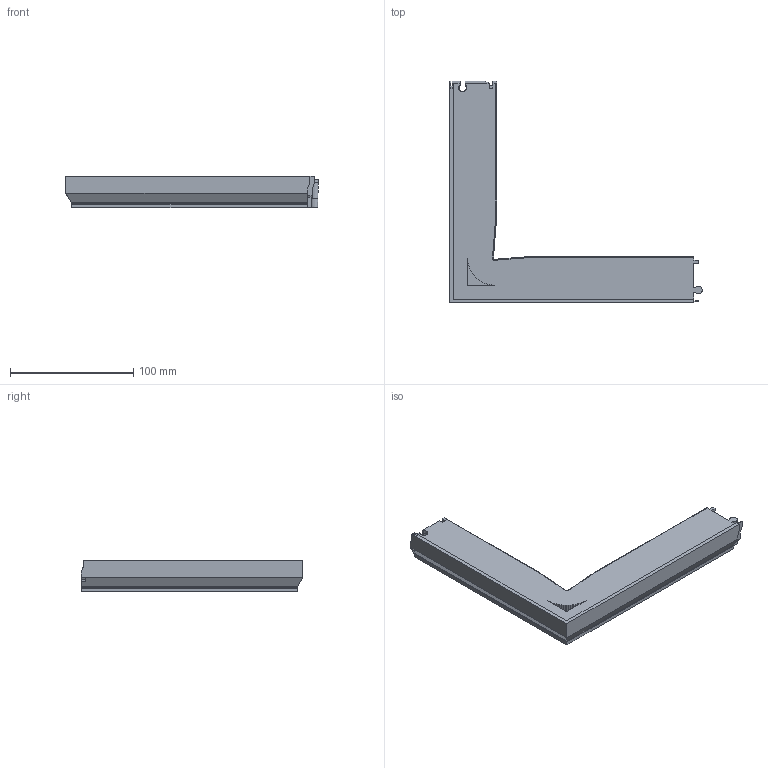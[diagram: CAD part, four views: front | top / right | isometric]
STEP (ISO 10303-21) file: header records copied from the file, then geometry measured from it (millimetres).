
FILE_DESCRIPTION(('Open CASCADE Model'),'2;1');
FILE_NAME('Open CASCADE Shape Model','2026-10-24T07:18:08',('Author'),( 'Open CASCADE'),'Open CASCADE STEP processor 8.0','build123d', 'Unknown');
FILE_SCHEMA(('AUTOMOTIVE_DESIGN { 1 0 10303 214 1 1 1 1 }'));
Products named in the file (1): SOLID
Bounding box: 205.18 x 180.4 x 26 mm (x, y, z)
Volume: 208130.4 mm3; surface area: 52587.1 mm2
Topology: 1 solids, 1 shells, 2412 faces, 5214 edges, 2805 vertices
Faces by surface type: bspline 1918, plane 488, cone 6
Entity records: 125618 total; most frequent: CARTESIAN_POINT 32846, DIRECTION 11726, LINE 10716, VECTOR 10716, ORIENTED_EDGE 10428, PCURVE 10428, DEFINITIONAL_REPRESENTATION 10428, EDGE_CURVE 5214
